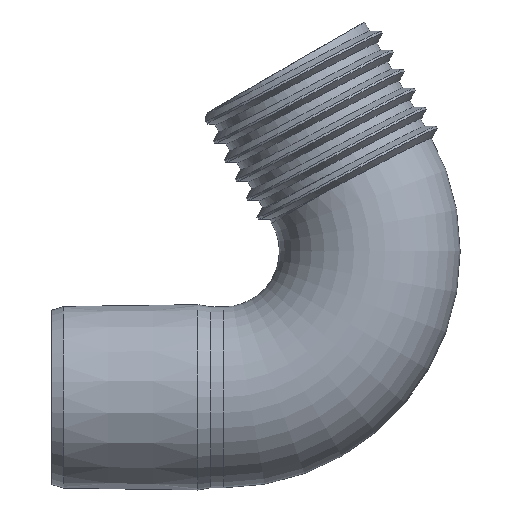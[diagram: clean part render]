
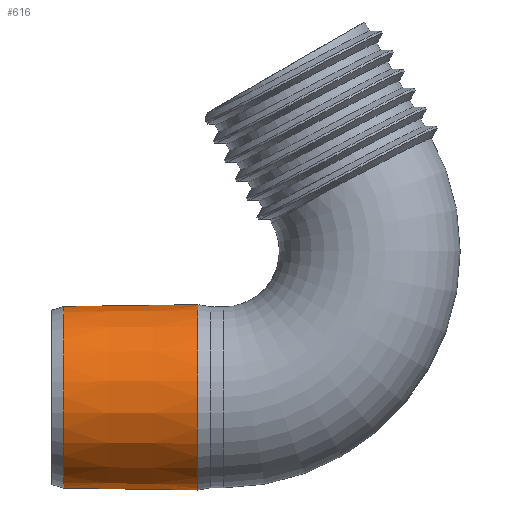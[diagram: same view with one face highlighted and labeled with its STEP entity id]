
A CAD part, front view. The second image highlights one B-rep face of the part: STEP entity #616.
In plain terms, the highlighted conical face has half-angle 0.788 degrees and reference radius 25.35 mm.
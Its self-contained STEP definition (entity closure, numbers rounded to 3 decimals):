
#82 = EDGE_CURVE ( 'NONE', #18509, #13498, #13673, .T. ) ;
#616 = ADVANCED_FACE ( 'NONE', ( #9536 ), #11652, .T. ) ;
#943 = AXIS2_PLACEMENT_3D ( 'NONE', #15614, #4478, #3121 ) ;
#1397 = ORIENTED_EDGE ( 'NONE', *, *, #82, .T. ) ;
#1449 = LINE ( 'NONE', #4371, #19005 ) ;
#1473 = EDGE_CURVE ( 'NONE', #12128, #2332, #7298, .T. ) ;
#2282 = ORIENTED_EDGE ( 'NONE', *, *, #1473, .T. ) ;
#2332 = VERTEX_POINT ( 'NONE', #5320 ) ;
#2383 = CARTESIAN_POINT ( 'NONE',  ( 3.214, 0., 0. ) ) ;
#2949 = DIRECTION ( 'NONE',  ( -1., 0., 0.014 ) ) ;
#3121 = DIRECTION ( 'NONE',  ( 0., 0., 1. ) ) ;
#3546 = EDGE_LOOP ( 'NONE', ( #8060, #1397, #11726, #2282 ) ) ;
#3584 = CARTESIAN_POINT ( 'NONE',  ( 3.214, 0., 24.844 ) ) ;
#4371 = CARTESIAN_POINT ( 'NONE',  ( -1803.636, 0., 0. ) ) ;
#4478 = DIRECTION ( 'NONE',  ( -1., 0., 0. ) ) ;
#5320 = CARTESIAN_POINT ( 'NONE',  ( 40., 0., 25.35 ) ) ;
#6285 = CARTESIAN_POINT ( 'NONE',  ( 40., 0., 0. ) ) ;
#7298 = CIRCLE ( 'NONE', #943, 25.35 ) ;
#7893 = CARTESIAN_POINT ( 'NONE',  ( 40., 0., -25.35 ) ) ;
#8060 = ORIENTED_EDGE ( 'NONE', *, *, #14915, .F. ) ;
#9536 = FACE_OUTER_BOUND ( 'NONE', #3546, .T. ) ;
#9974 = AXIS2_PLACEMENT_3D ( 'NONE', #6285, #17615, #11004 ) ;
#10904 = LINE ( 'NONE', #17315, #16619 ) ;
#11004 = DIRECTION ( 'NONE',  ( 0., 0., -1. ) ) ;
#11652 = CONICAL_SURFACE ( 'NONE', #9974, 25.35, 0.014 ) ;
#11726 = ORIENTED_EDGE ( 'NONE', *, *, #11789, .F. ) ;
#11789 = EDGE_CURVE ( 'NONE', #12128, #13498, #10904, .T. ) ;
#12128 = VERTEX_POINT ( 'NONE', #7893 ) ;
#12222 = DIRECTION ( 'NONE',  ( 1., 0., 0. ) ) ;
#13498 = VERTEX_POINT ( 'NONE', #16328 ) ;
#13673 = CIRCLE ( 'NONE', #14347, 24.844 ) ;
#14347 = AXIS2_PLACEMENT_3D ( 'NONE', #2383, #12222, #18631 ) ;
#14915 = EDGE_CURVE ( 'NONE', #18509, #2332, #1449, .T. ) ;
#15614 = CARTESIAN_POINT ( 'NONE',  ( 40., 0., 0. ) ) ;
#16328 = CARTESIAN_POINT ( 'NONE',  ( 3.214, 0., -24.844 ) ) ;
#16619 = VECTOR ( 'NONE', #2949, 1000. ) ;
#17315 = CARTESIAN_POINT ( 'NONE',  ( -1803.636, 0., 0. ) ) ;
#17615 = DIRECTION ( 'NONE',  ( 1., 0., 0. ) ) ;
#18509 = VERTEX_POINT ( 'NONE', #3584 ) ;
#18631 = DIRECTION ( 'NONE',  ( 0., 0., 1. ) ) ;
#18866 = DIRECTION ( 'NONE',  ( 1., 0., 0.014 ) ) ;
#19005 = VECTOR ( 'NONE', #18866, 1000. ) ;
